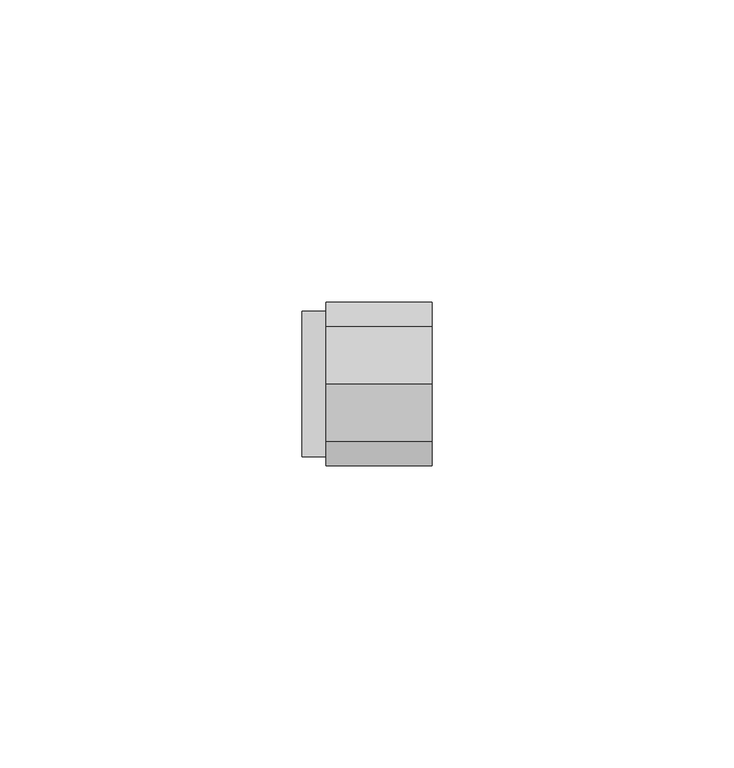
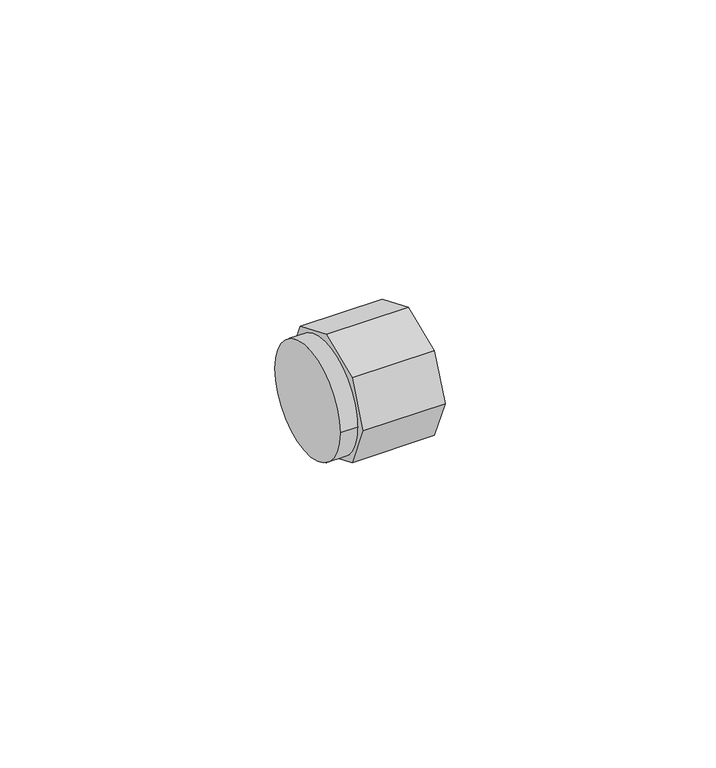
"""IFC4 building model written with IfcOpenShell, lengths in millimetres: pipe fitting geometry, REHAU_RAUTITAN_Cap_RX+ : REHAU_RAUTITAN_Cap_RX+."""

import ifcopenshell
import ifcopenshell.guid

model = None  # the IFC model being written
_history = None  # IfcOwnerHistory: only IFC2X3 demands one
_inside = {}  # id of a spatial element -> (the spatial element, [elements in it])
_under = {}  # id of a project, library or spatial element -> (it, [spatial elements below it])
_declared = {}  # id of a project -> (the project, [libraries it declares])
_typed = {}  # id of a type object -> (the type object, [elements of that type])
_made_of = {}  # id of a material, layer set ... -> (it, [elements and type objects made of it])


def new_model(schema):
    """Start an empty IFC model of exactly this schema.

    Asked for "IFC4X3", IfcOpenShell would pick the latest addendum, in which some entities
    have other attributes; the version numbers below select the first issue.
    IFC2X3 requires an IfcOwnerHistory on every rooted entity: one is made here for all.
    """
    global model, _history
    if schema == "IFC4X3":
        model = ifcopenshell.file(schema_version=(4, 3, 0, 0))
    else:
        model = ifcopenshell.file(schema=schema)
    _inside.clear()
    _under.clear()
    _declared.clear()
    _typed.clear()
    _made_of.clear()
    _history = None
    if model.schema == "IFC2X3":
        org = make("IfcOrganization", Name="unknown")
        user = make(
            "IfcPersonAndOrganization",
            ThePerson=make("IfcPerson", FamilyName="unknown"),
            TheOrganization=org,
        )
        app = make(
            "IfcApplication",
            ApplicationDeveloper=org,
            Version="unknown",
            ApplicationFullName="unknown",
            ApplicationIdentifier="unknown",
        )
        _history = make(
            "IfcOwnerHistory",
            OwningUser=user,
            OwningApplication=app,
            ChangeAction="ADDED",
            CreationDate=0,
        )
    return model


def make(cls, **values):
    """One entity of the class cls with the attributes given. An attribute that is None is left unset."""
    return model.create_entity(
        cls, **{name: value for name, value in values.items() if value is not None}
    )


def rooted(cls, **values):
    """An entity with a GlobalId (a new one), such as an element, a storey or a relation."""
    return make(cls, GlobalId=ifcopenshell.guid.new(), OwnerHistory=_history, **values)


def si_unit(unit_type, name, prefix=None):
    """IfcSIUnit, for example si_unit("LENGTHUNIT", "METRE", prefix="MILLI")."""
    return make("IfcSIUnit", UnitType=unit_type, Prefix=prefix, Name=name)


def assignment(units):
    """IfcUnitAssignment: the units of a project."""
    return None if units is None else make("IfcUnitAssignment", Units=units)


def point(xyz):
    """IfcCartesianPoint."""
    return None if xyz is None else make("IfcCartesianPoint", Coordinates=xyz)


def direction(xyz):
    """IfcDirection."""
    return None if xyz is None else make("IfcDirection", DirectionRatios=xyz)


def frame(location, z_axis=None, x_axis=None):
    """IfcAxis2Placement3D, a coordinate frame: its origin and axes. An axis left out is left unset."""
    return make(
        "IfcAxis2Placement3D",
        Location=point(location),
        Axis=direction(z_axis),
        RefDirection=direction(x_axis),
    )


def frame_2d(location, x_axis=None):
    """IfcAxis2Placement2D, a coordinate frame in the plane: its origin and x axis."""
    return make(
        "IfcAxis2Placement2D", Location=point(location), RefDirection=direction(x_axis)
    )


def origin():
    """The frame at (0, 0, 0) with its axes left unset."""
    return frame((0.0, 0.0, 0.0))


def origin_2d():
    """The frame at (0, 0) in the plane with its x axis left unset."""
    return frame_2d((0.0, 0.0))


def place(relative_to, where):
    """IfcLocalPlacement: puts the frame where relative to a parent placement (None: the world)."""
    return make(
        "IfcLocalPlacement", PlacementRelTo=relative_to, RelativePlacement=where
    )


def context(
    kind, dimensions, precision=None, world=None, true_north=None, identifier=None
):
    """IfcGeometricRepresentationContext, for example the 3D "Model" context."""
    return make(
        "IfcGeometricRepresentationContext",
        ContextIdentifier=identifier,
        ContextType=kind,
        CoordinateSpaceDimension=dimensions,
        Precision=precision,
        WorldCoordinateSystem=world,
        TrueNorth=true_north,
    )


def project(units=None, contexts=None):
    """IfcProject with its units and contexts."""
    return rooted(
        "IfcProject",
        Name="project",
        RepresentationContexts=contexts,
        UnitsInContext=assignment(units),
    )


def spatial(cls, under=None, at=None, **own):
    """A site, building, storey or space (cls), placed at a placement, below another one or the project."""
    s = rooted(cls, ObjectPlacement=at, **own)
    if under is not None:
        _under.setdefault(under.id(), (under, []))[1].append(s)
    return s


def polyline(points):
    """IfcPolyline through the points."""
    return make("IfcPolyline", Points=[point(p) for p in points])


def circle_curve(where, radius):
    """IfcCircle in the frame where."""
    return make("IfcCircle", Position=where, Radius=radius)


def trimmed(basis, trim1, trim2, sense, master):
    """IfcTrimmedCurve: the piece of a basis curve between two trims."""
    return make(
        "IfcTrimmedCurve",
        BasisCurve=basis,
        Trim1=trim1,
        Trim2=trim2,
        SenseAgreement=sense,
        MasterRepresentation=master,
    )


def segment(curve, same_sense, transition):
    """IfcCompositeCurveSegment."""
    return make(
        "IfcCompositeCurveSegment",
        Transition=transition,
        SameSense=same_sense,
        ParentCurve=curve,
    )


def composite_curve(segments, self_intersect=None):
    """IfcCompositeCurve: segments joined end to end."""
    return make("IfcCompositeCurve", Segments=segments, SelfIntersect=self_intersect)


def outline(outer, holes=None, kind="AREA"):
    """IfcArbitraryClosedProfileDef: a profile drawn as a closed curve; with holes, ...WithVoids."""
    if holes is None:
        return make("IfcArbitraryClosedProfileDef", ProfileType=kind, OuterCurve=outer)
    return make(
        "IfcArbitraryProfileDefWithVoids",
        ProfileType=kind,
        OuterCurve=outer,
        InnerCurves=holes,
    )


def extrude(swept, where, along, depth):
    """IfcExtrudedAreaSolid: the profile swept, set in the frame where, extruded along a direction by depth."""
    return make(
        "IfcExtrudedAreaSolid",
        SweptArea=swept,
        Position=where,
        ExtrudedDirection=direction(along),
        Depth=depth,
    )


def shape(context_of_items, identifier, shape_type, items):
    """IfcShapeRepresentation: the items that make up one representation, for example the "Body"."""
    return make(
        "IfcShapeRepresentation",
        ContextOfItems=context_of_items,
        RepresentationIdentifier=identifier,
        RepresentationType=shape_type,
        Items=items,
    )


def source(mapping_origin, context_of_items, identifier, shape_type, items):
    """IfcRepresentationMap: a shape defined once, which mapped items show again and again."""
    return make(
        "IfcRepresentationMap",
        MappingOrigin=mapping_origin,
        MappedRepresentation=shape(context_of_items, identifier, shape_type, items),
    )


def transform(
    local_origin,
    x_axis=None,
    y_axis=None,
    z_axis=None,
    scale=None,
    scale2=None,
    scale3=None,
    uniform=True,
):
    """IfcCartesianTransformationOperator3D, or its non-uniform kind. x_axis, y_axis, z_axis: its Axis1, 2, 3."""
    if uniform:
        return make(
            "IfcCartesianTransformationOperator3D",
            Axis1=direction(x_axis),
            Axis2=direction(y_axis),
            LocalOrigin=point(local_origin),
            Scale=scale,
            Axis3=direction(z_axis),
        )
    return make(
        "IfcCartesianTransformationOperator3DnonUniform",
        Axis1=direction(x_axis),
        Axis2=direction(y_axis),
        LocalOrigin=point(local_origin),
        Scale=scale,
        Axis3=direction(z_axis),
        Scale2=scale2,
        Scale3=scale3,
    )


def mapped(mapping_source, mapping_target):
    """IfcMappedItem: shows the shape of a source again, moved by a transform."""
    return make(
        "IfcMappedItem", MappingSource=mapping_source, MappingTarget=mapping_target
    )


def made_of(thing, what):
    """Note that an element or type object is made of a material, layer set ...; save() writes the relation."""
    if what is not None:
        _made_of.setdefault(what.id(), (what, []))[1].append(thing)
    return thing


def element(
    cls,
    number,
    at=None,
    inside=None,
    cuts=None,
    type_object=None,
    material=None,
    context=None,
    identifier="Body",
    shape_type=None,
    held_by="IfcProductDefinitionShape",
    body=None,
    shapes=None,
    **own,
):
    """One element of the class cls, such as IfcWall. Its Tag is "e" and its number.

    at: its placement. inside: the storey or other place that contains it. cuts: it is an
    opening in that element (IfcRelVoidsElement). A single representation is given by context,
    identifier, shape_type and body (its items); several are given by shapes. held_by: the class
    of the entity that holds the representations. save() writes the other relations.
    """
    e = rooted(cls, Tag="e%d" % number, ObjectPlacement=at, **own)
    if body is not None:
        shapes = [shape(context, identifier, shape_type, body)]
    if shapes is not None:
        e.Representation = make(held_by, Representations=shapes)
    if inside is not None:
        _inside.setdefault(inside.id(), (inside, []))[1].append(e)
    if cuts is not None:
        rooted(
            "IfcRelVoidsElement", RelatingBuildingElement=cuts, RelatedOpeningElement=e
        )
    if type_object is not None:
        _typed.setdefault(type_object.id(), (type_object, []))[1].append(e)
    return made_of(e, material)


def aggregate(whole, parts):
    """IfcRelAggregates: a whole, such as a stair, and the parts it consists of."""
    return rooted("IfcRelAggregates", RelatingObject=whole, RelatedObjects=parts)


def save(model, path):
    """Write the relations noted so far, then the file.

    IfcRelAggregates (storeys below a building ...), IfcRelContainedInSpatialStructure (elements
    in a storey), IfcRelDefinesByType, IfcRelAssociatesMaterial and IfcRelDeclares: one each for
    every whole, place, type object, material and project.
    """
    for whole, parts in _under.values():
        aggregate(whole, parts)
    for where, things in _inside.values():
        rooted(
            "IfcRelContainedInSpatialStructure",
            RelatedElements=things,
            RelatingStructure=where,
        )
    for kind, things in _typed.values():
        rooted("IfcRelDefinesByType", RelatedObjects=things, RelatingType=kind)
    for what, things in _made_of.values():
        rooted("IfcRelAssociatesMaterial", RelatedObjects=things, RelatingMaterial=what)
    for by, libraries in _declared.values():
        rooted("IfcRelDeclares", RelatingContext=by, RelatedDefinitions=libraries)
    model.write(path)


def pipe_fitting_2f2cc1b0(model_context):
    return source(origin(), model_context, "Body", "SweptSolid", [
        extrude(outline(polyline([(-9.5670858, 9.5670858), (0.0, 13.5299025), (9.5670858, 9.5670858), (13.5299025, 0.0), (9.5670858, -9.5670858), (0.0, -13.5299025), (-9.5670858, -9.5670858), (-13.5299025, 0.0), (-9.5670858, 9.5670858)]), holes=[composite_curve([segment(trimmed(circle_curve(origin_2d(), 10.39), [point((-10.39, 0.0))], [point((10.39, 0.0))], True, "CARTESIAN"), True, "CONTINUOUS"), segment(trimmed(circle_curve(origin_2d(), 10.39), [point((10.39, 0.0))], [point((-10.39, 0.0))], True, "CARTESIAN"), True, "CONTINUOUS")], self_intersect=False)]), frame((-6.75, 0.0, 0.0), z_axis=(1.0, 0.0, 0.0), x_axis=(0.0, 1.0, 0.0)), (0.0, 0.0, 1.0), 17.5),
        extrude(outline(composite_curve([segment(trimmed(circle_curve(origin_2d(), 12.0), [point((-12.0, 0.0))], [point((12.0, 0.0))], False, "CARTESIAN"), True, "CONTINUOUS"), segment(trimmed(circle_curve(origin_2d(), 12.0), [point((12.0, 0.0))], [point((-12.0, 0.0))], False, "CARTESIAN"), True, "CONTINUOUS")], self_intersect=False)), frame((-10.75, 0.0, 0.0), z_axis=(1.0, 0.0, 0.0), x_axis=(0.0, 1.0, 0.0)), (0.0, 0.0, 1.0), 4.0),
    ])


if __name__ == "__main__":
    model = new_model("IFC4")
    model_context = context("Model", 3, world=origin())
    ifc_project = project(units=[si_unit("LENGTHUNIT", "METRE", prefix="MILLI")], contexts=[model_context])
    site = spatial("IfcSite", under=ifc_project)
    building = spatial("IfcBuilding", under=site)
    placement = place(None, origin())
    pipe_fitting_shape = pipe_fitting_2f2cc1b0(model_context)
    element("IfcPipeFitting", 1, ObjectType="REHAU_RAUTITAN_Cap_RX+ : REHAU_RAUTITAN_Cap_RX+", at=placement, inside=building, context=model_context, shape_type="MappedRepresentation", body=[
        mapped(pipe_fitting_shape, transform((0.0, 0.0, 0.0), x_axis=(1.0, 0.0, 0.0), y_axis=(0.0, 1.0, 0.0), z_axis=(0.0, 0.0, 1.0))),
    ])
    save(model, "model.ifc")
